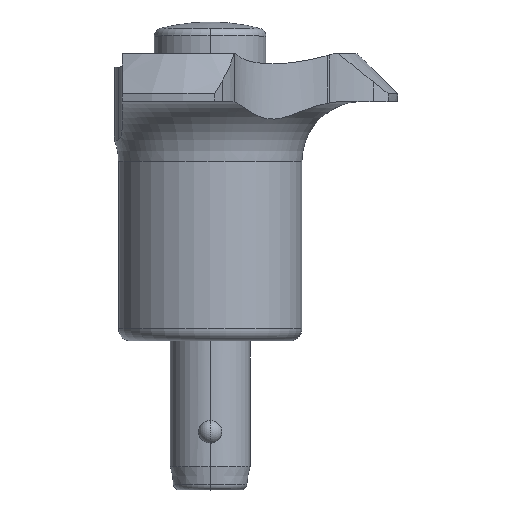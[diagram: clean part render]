
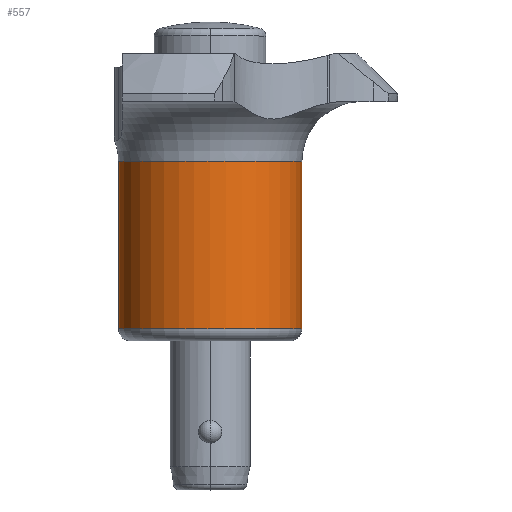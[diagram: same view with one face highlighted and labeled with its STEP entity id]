
A CAD part, top view. The second image highlights one B-rep face of the part: STEP entity #557.
In plain terms, the highlighted cylindrical face has radius 11.5 mm (diameter 23 mm), a partial arc.
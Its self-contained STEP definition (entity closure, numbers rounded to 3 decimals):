
#9 = CARTESIAN_POINT ( 'NONE',  ( -11.5, 22.5, 0. ) ) ;
#51 = VERTEX_POINT ( 'NONE', #9 ) ;
#125 = DIRECTION ( 'NONE',  ( -1., 0., 0. ) ) ;
#165 = FACE_OUTER_BOUND ( 'NONE', #1217, .T. ) ;
#232 = DIRECTION ( 'NONE',  ( 0., 1., 0. ) ) ;
#281 = LINE ( 'NONE', #1158, #1845 ) ;
#296 = DIRECTION ( 'NONE',  ( 0., 1., 0. ) ) ;
#364 = AXIS2_PLACEMENT_3D ( 'NONE', #1470, #1024, #125 ) ;
#438 = CARTESIAN_POINT ( 'NONE',  ( 11.5, 22.5, 0. ) ) ;
#442 = EDGE_CURVE ( 'NONE', #1225, #51, #2088, .T. ) ;
#516 = DIRECTION ( 'NONE',  ( 0., 1., 0. ) ) ;
#557 = ADVANCED_FACE ( 'NONE', ( #165 ), #1275, .T. ) ;
#636 = CIRCLE ( 'NONE', #1607, 11.5 ) ;
#1024 = DIRECTION ( 'NONE',  ( 0., 1., 0. ) ) ;
#1077 = DIRECTION ( 'NONE',  ( 0., 1., 0. ) ) ;
#1155 = CARTESIAN_POINT ( 'NONE',  ( -11.5, 36., 0. ) ) ;
#1158 = CARTESIAN_POINT ( 'NONE',  ( 11.5, 36., 0. ) ) ;
#1217 = EDGE_LOOP ( 'NONE', ( #2792, #1926, #2714, #1511 ) ) ;
#1225 = VERTEX_POINT ( 'NONE', #1667 ) ;
#1275 = CYLINDRICAL_SURFACE ( 'NONE', #364, 11.5 ) ;
#1294 = CARTESIAN_POINT ( 'NONE',  ( 0., 1.5, 0. ) ) ;
#1300 = EDGE_CURVE ( 'NONE', #51, #1619, #636, .T. ) ;
#1470 = CARTESIAN_POINT ( 'NONE',  ( 0., 36., 0. ) ) ;
#1511 = ORIENTED_EDGE ( 'NONE', *, *, #442, .F. ) ;
#1607 = AXIS2_PLACEMENT_3D ( 'NONE', #2424, #232, #1971 ) ;
#1619 = VERTEX_POINT ( 'NONE', #438 ) ;
#1667 = CARTESIAN_POINT ( 'NONE',  ( -11.5, 1.5, 0. ) ) ;
#1698 = CIRCLE ( 'NONE', #1974, 11.5 ) ;
#1845 = VECTOR ( 'NONE', #296, 1000. ) ;
#1875 = DIRECTION ( 'NONE',  ( 1., 0., 0. ) ) ;
#1913 = VERTEX_POINT ( 'NONE', #2775 ) ;
#1926 = ORIENTED_EDGE ( 'NONE', *, *, #2540, .T. ) ;
#1971 = DIRECTION ( 'NONE',  ( -1., 0., 0. ) ) ;
#1974 = AXIS2_PLACEMENT_3D ( 'NONE', #1294, #1077, #1875 ) ;
#2088 = LINE ( 'NONE', #1155, #2755 ) ;
#2424 = CARTESIAN_POINT ( 'NONE',  ( 0., 22.5, 0. ) ) ;
#2540 = EDGE_CURVE ( 'NONE', #1913, #1619, #281, .T. ) ;
#2553 = EDGE_CURVE ( 'NONE', #1225, #1913, #1698, .T. ) ;
#2714 = ORIENTED_EDGE ( 'NONE', *, *, #1300, .F. ) ;
#2755 = VECTOR ( 'NONE', #516, 1000. ) ;
#2775 = CARTESIAN_POINT ( 'NONE',  ( 11.5, 1.5, 0. ) ) ;
#2792 = ORIENTED_EDGE ( 'NONE', *, *, #2553, .T. ) ;
